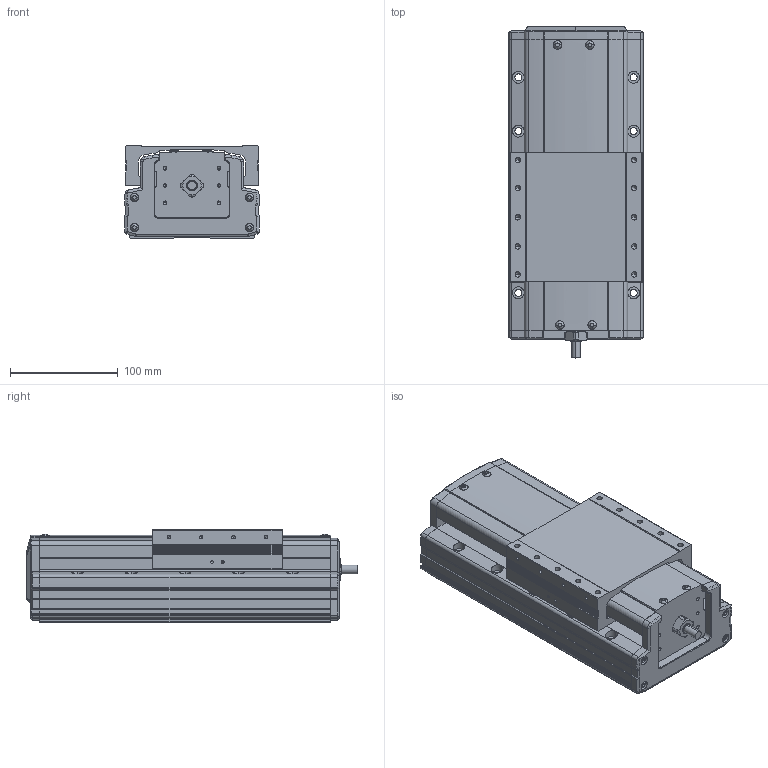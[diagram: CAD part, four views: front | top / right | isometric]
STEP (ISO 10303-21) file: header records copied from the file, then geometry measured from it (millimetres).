
FILE_DESCRIPTION(('STEP AP214'),'1');
FILE_NAME('Z:/Web/3D/PSA125/STP/PSA125-050 (3D)/PSA125ㅁㅁ-050.stp','2014-06-18T08:07:18',(' '),(' '),'Spatial InterOp 3D',' ',' ');
FILE_SCHEMA(('automotive_design'));
Length unit declared in the file: millimetre
Products named in the file (18): 스크루 : Round - M4.0 x 10.0; RRCV-PA120; SLIDE; BASE; FRCV-PA120-1(기준 뿔 제거); RR1500; 스크루 : Round - M4.0 x 6.0; 너트 : Square - M10.0 x 220.7419
Bounding box: 125 x 308.1 x 86 mm (x, y, z)
Volume: 2547677.4 mm3; surface area: 262063.8 mm2
Topology: 18 solids, 18 shells, 1756 faces, 4735 edges, 3030 vertices
Faces by surface type: plane 1002, cylinder 502, cone 164, sphere 32, bspline 31, torus 25
Entity records: 70997 total; most frequent: CARTESIAN_POINT 12291, ORIENTED_EDGE 9282, DIRECTION 9253, EDGE_CURVE 4641, LINE 3219, VECTOR 3219, VERTEX_POINT 3030, AXIS2_PLACEMENT_3D 3017
